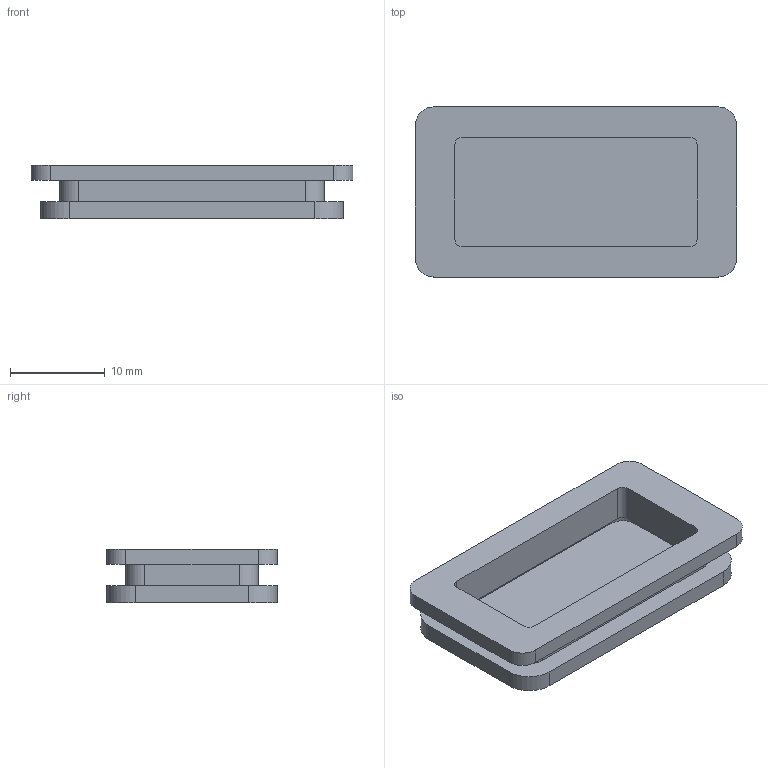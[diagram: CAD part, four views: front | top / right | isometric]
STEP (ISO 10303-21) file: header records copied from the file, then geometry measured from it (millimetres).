
FILE_DESCRIPTION(('Open CASCADE Model'),'2;1');
FILE_NAME('Open CASCADE Shape Model','2026-11-08T19:31:44',('Author'),( 'Open CASCADE'),'Open CASCADE STEP processor 7.8','Open CASCADE 7.8' ,'Unknown');
FILE_SCHEMA(('AUTOMOTIVE_DESIGN { 1 0 10303 214 1 1 1 1 }'));
Length unit declared in the file: millimetre
Products named in the file (1): Open CASCADE STEP translator 7.8 5
Bounding box: 34 x 18 x 5.65 mm (x, y, z)
Volume: 1286.4 mm3; surface area: 2617.8 mm2
Topology: 1 solids, 1 shells, 46 faces, 120 edges, 80 vertices
Faces by surface type: plane 26, cylinder 20
Entity records: 2974 total; most frequent: CARTESIAN_POINT 543, DIRECTION 458, LINE 248, VECTOR 248, ORIENTED_EDGE 240, PCURVE 240, DEFINITIONAL_REPRESENTATION 240, EDGE_CURVE 120
